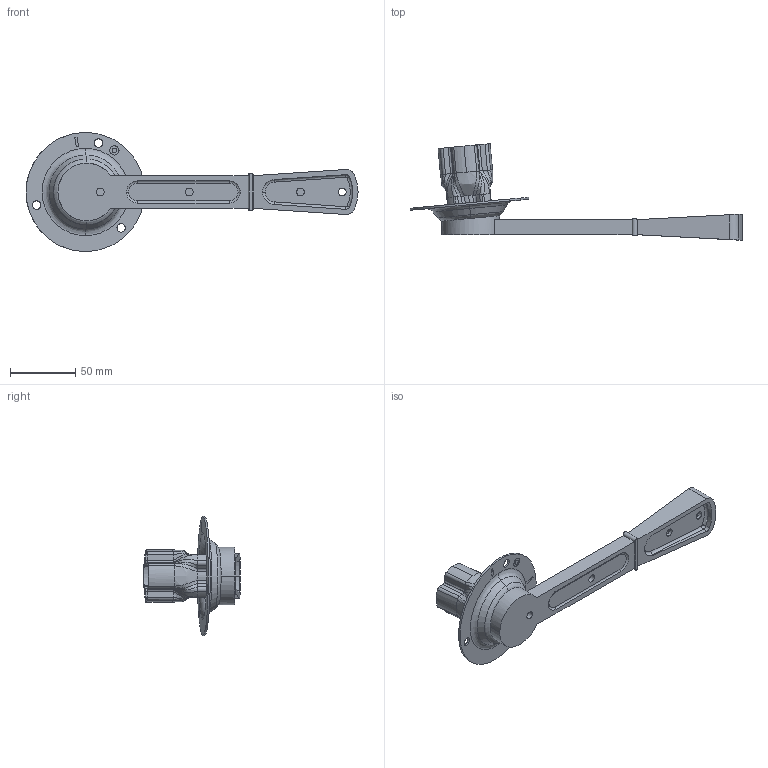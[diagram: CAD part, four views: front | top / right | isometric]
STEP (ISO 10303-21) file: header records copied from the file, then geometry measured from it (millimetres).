
FILE_DESCRIPTION (( 'STEP AP203' ), '1' );
FILE_NAME ('Ðóêîÿòêà áîêîâàÿ ñìåùåííàÿ ÂÐ32 (630À).STEP', '2014-10-29T08:58:58', ( 'admin' ), ( '' ), 'SwSTEP 2.0', 'SolidWorks 2007', '' );
FILE_SCHEMA (( 'CONFIG_CONTROL_DESIGN' ));
Length unit declared in the file: millimetre
Products named in the file (1): Ðóêîÿòêà áîêîâàÿ ñìåùåííàÿ ÂÐ32 (630À)
Bounding box: 253.68 x 73.77 x 91 mm (x, y, z)
Surface area: 53099.3 mm2 (no closed solid volume)
Topology: 0 solids, 5 shells, 287 faces, 856 edges, 581 vertices
Faces by surface type: cylinder 130, plane 73, bspline 56, torus 24, cone 4
Entity records: 47672 total; most frequent: CARTESIAN_POINT 40577, ORIENTED_EDGE 1525, DIRECTION 1243, EDGE_CURVE 856, VERTEX_POINT 581, AXIS2_PLACEMENT_3D 474, EDGE_LOOP 316, VECTOR 295
